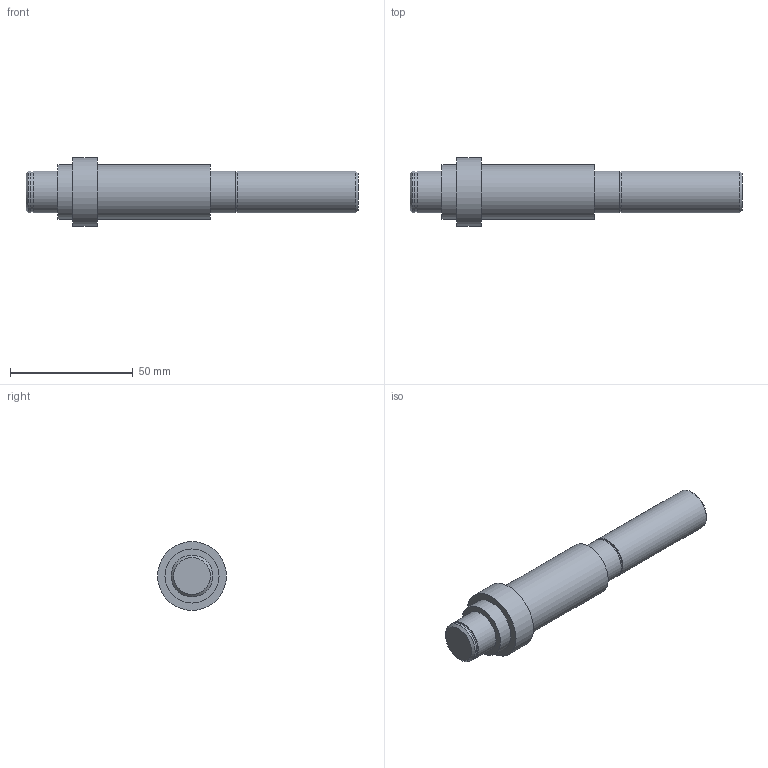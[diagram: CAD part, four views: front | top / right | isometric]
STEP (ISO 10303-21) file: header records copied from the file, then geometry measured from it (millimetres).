
FILE_DESCRIPTION(/* description */ (''),/* implementation_level */ '2;1');
FILE_NAME(/* name */ 'C:\Users\user\Desktop\Ensamble-reductor-sin-engranes-V2022\Eje1.stp',/* time_stamp */ '2023-02-15T20:24:17-05:00',/* author */ ('user'),/* organization */ (''),/* preprocessor_version */ 'ST-DEVELOPER v18.1',/* originating_system */ 'Autodesk Inventor 2022',/* authorisation */ '');
FILE_SCHEMA (('AUTOMOTIVE_DESIGN { 1 0 10303 214 3 1 1 }'));
Length unit declared in the file: millimetre
Products named in the file (1): Shaft
Bounding box: 135 x 28 x 28 mm (x, y, z)
Volume: 42400.5 mm3; surface area: 9627.2 mm2
Topology: 1 solids, 1 shells, 21 faces, 33 edges, 22 vertices
Faces by surface type: plane 10, cylinder 9, cone 2
Full cylindrical faces by diameter (mm): 16.1 x2, 17 x4, 22 x2, 28 x1
Entity records: 530 total; most frequent: DIRECTION 99, CARTESIAN_POINT 77, ORIENTED_EDGE 66, AXIS2_PLACEMENT_3D 44, EDGE_CURVE 33, EDGE_LOOP 29, CIRCLE 22, VERTEX_POINT 22
